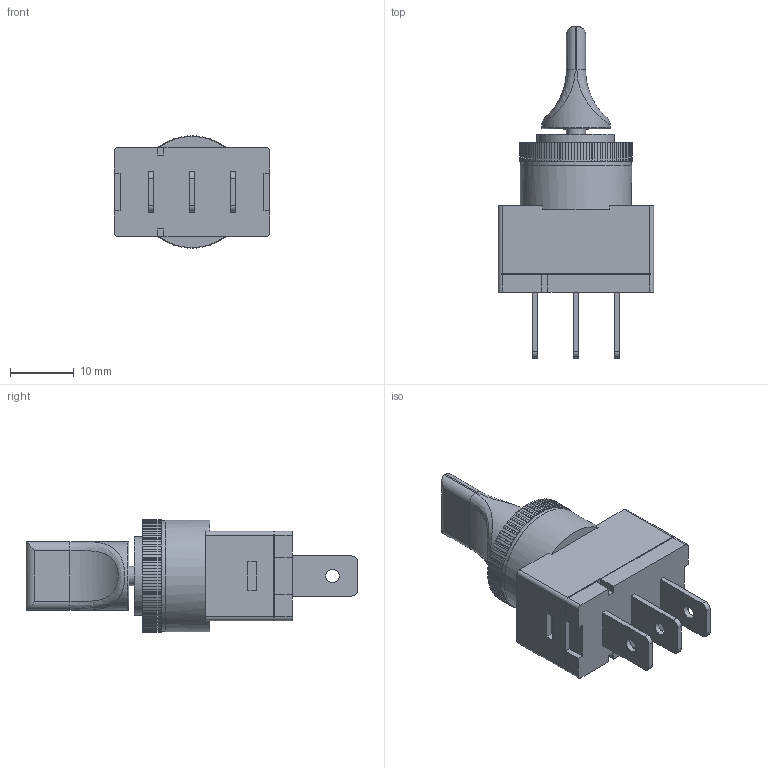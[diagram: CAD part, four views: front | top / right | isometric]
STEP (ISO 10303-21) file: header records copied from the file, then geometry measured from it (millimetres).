
FILE_DESCRIPTION(/* description */ (''),/* implementation_level */ '2;1');
FILE_NAME(/* name */ 'TE6-1A-DC-1-UL.stp',/* time_stamp */ '2025-02-10T08:43:31-08:00',/* author */ ('tylerl'),/* organization */ (''),/* preprocessor_version */ 'ST-DEVELOPER v20',/* originating_system */ 'Autodesk Inventor 2025',/* authorisation */ '');
FILE_SCHEMA (('AUTOMOTIVE_DESIGN { 1 0 10303 214 3 1 1 }'));
Length unit declared in the file: millimetre
Products named in the file (1): Base
Bounding box: 24.4 x 52.1 x 17.65 mm (x, y, z)
Volume: 8027.1 mm3; surface area: 3596.6 mm2
Topology: 61 solids, 61 shells, 594 faces, 1374 edges, 912 vertices
Faces by surface type: plane 505, cylinder 86, bspline 2, torus 1
Full cylindrical faces by diameter (mm): 2.1 x3, 3 x1, 10.8 x1, 17.35 x1, 17.45 x1
Entity records: 16826 total; most frequent: CARTESIAN_POINT 3086, ORIENTED_EDGE 2748, DIRECTION 2739, EDGE_CURVE 1374, LINE 1177, VECTOR 1177, VERTEX_POINT 912, AXIS2_PLACEMENT_3D 781
